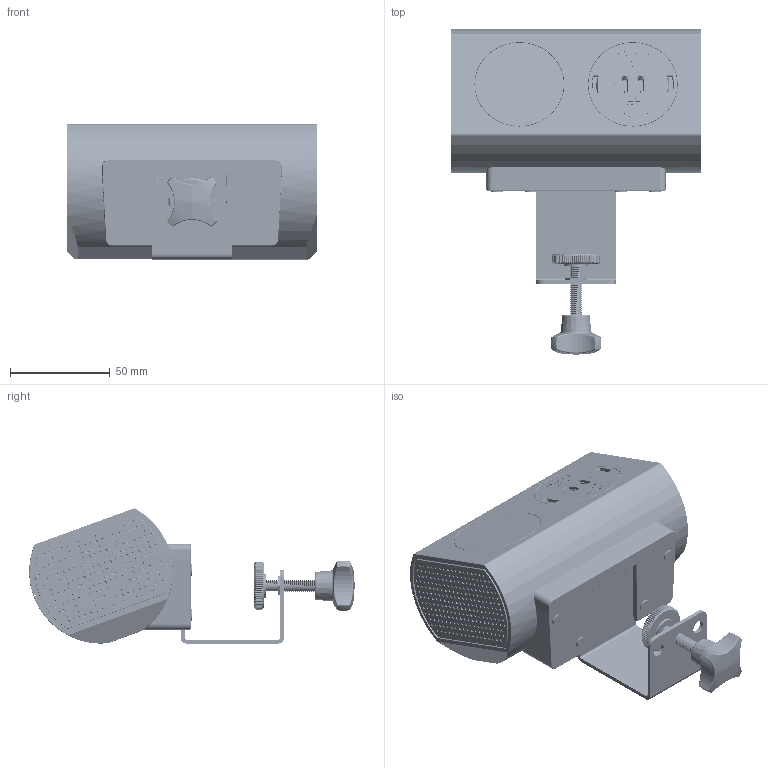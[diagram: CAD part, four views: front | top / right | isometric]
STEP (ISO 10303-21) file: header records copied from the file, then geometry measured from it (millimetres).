
FILE_DESCRIPTION (( 'STEP AP203' ), '1' );
FILE_NAME ('Pro_Panda_100W_2_Blank_100W.STEP', '2026-09-14T08:53:01', ( '' ), ( '' ), 'SwSTEP 2.0', 'SolidWorks 2024', '' );
FILE_SCHEMA (( 'CONFIG_CONTROL_DESIGN' ));
Length unit declared in the file: millimetre
Products named in the file (1): Pro_Panda_100W_2_Blank_100W
Bounding box: 125.6 x 163.54 x 67.89 mm (x, y, z)
Surface area: 75081.5 mm2 (no closed solid volume)
Topology: 0 solids, 7 shells, 4706 faces, 11478 edges, 7341 vertices
Faces by surface type: plane 1968, cylinder 1229, torus 687, bspline 611, cone 158, sphere 53
Full cylindrical faces by diameter (mm): 1.1 x212, 1.2 x148, 1.3 x84, 1.4 x52, 1.5 x18, 6 x4, 6.8 x2, 12 x1, 45 x2
Entity records: 154805 total; most frequent: CARTESIAN_POINT 60713, ORIENTED_EDGE 19966, DIRECTION 16370, EDGE_CURVE 9983, AXIS2_PLACEMENT_3D 7131, VERTEX_POINT 6922, EDGE_LOOP 6393, FACE_OUTER_BOUND 5754
